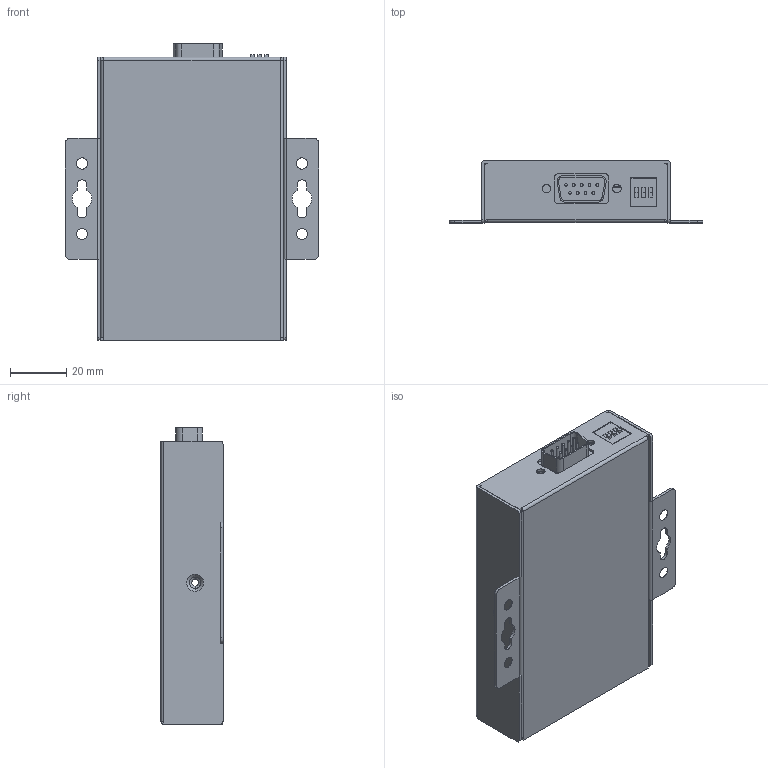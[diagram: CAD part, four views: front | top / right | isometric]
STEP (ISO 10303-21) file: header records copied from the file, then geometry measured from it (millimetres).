
FILE_DESCRIPTION((''),'2;1');
FILE_NAME('PRT0001','2011-06-17T',('Vincent_Huang'),(''),'PRO/ENGINEER BY PARAMETRIC TECHNOLOGY CORPORATION, 2004320','PRO/ENGINEER BY PARAMETRIC TECHNOLOGY CORPORATION, 2004320','');
FILE_SCHEMA(('CONFIG_CONTROL_DESIGN'));
Length unit declared in the file: millimetre
Products named in the file (1): PRT0001
Bounding box: 90 x 22 x 105.2 mm (x, y, z)
Volume: 38473 mm3; surface area: 66102.7 mm2
Topology: 14 solids, 14 shells, 838 faces, 2202 edges, 1442 vertices
Faces by surface type: plane 523, cylinder 293, cone 12, sphere 6, torus 4
Entity records: 25975 total; most frequent: DIRECTION 4551, CARTESIAN_POINT 4476, ORIENTED_EDGE 4392, EDGE_CURVE 2196, VECTOR 1517, LINE 1517, AXIS2_PLACEMENT_3D 1517, VERTEX_POINT 1442
